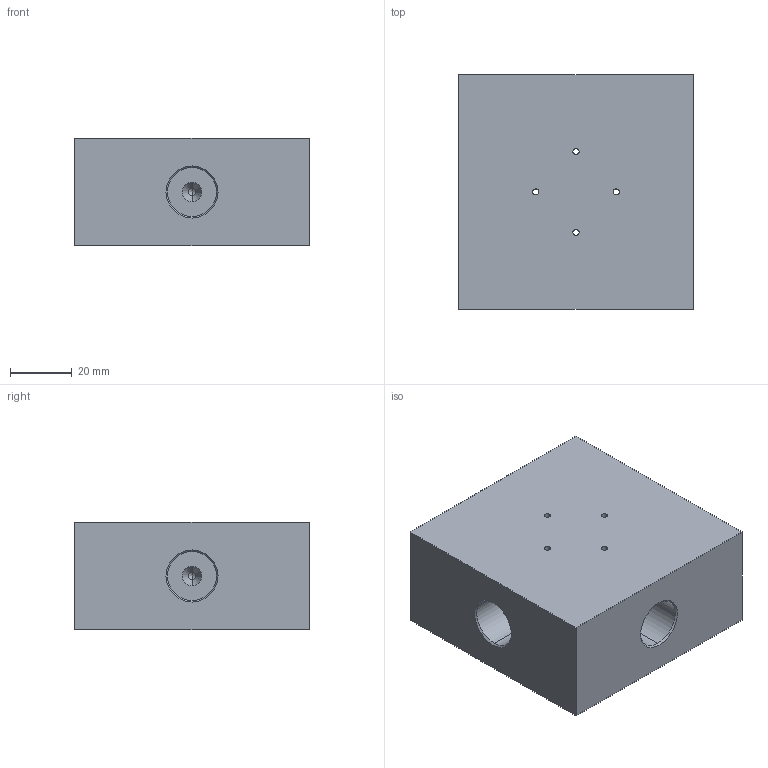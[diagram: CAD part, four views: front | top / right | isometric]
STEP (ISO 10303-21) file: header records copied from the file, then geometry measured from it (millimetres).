
FILE_DESCRIPTION (( 'STEP AP203' ), '1' );
FILE_NAME ('FT100CS06.STEP', '2026-06-26T00:51:43', ( 'USER' ), ( '' ), 'SwSTEP 2.0', 'SolidWorks 2023', '' );
FILE_SCHEMA (( 'CONFIG_CONTROL_DESIGN' ));
Length unit declared in the file: millimetre
Products named in the file (1): FT100CS06
Bounding box: 76.2 x 76.2 x 35 mm (x, y, z)
Volume: 181234.3 mm3; surface area: 28332.5 mm2
Topology: 1 solids, 1 shells, 66 faces, 172 edges, 100 vertices
Faces by surface type: cylinder 32, cone 24, plane 10
Entity records: 2273 total; most frequent: CARTESIAN_POINT 595, DIRECTION 338, ORIENTED_EDGE 328, EDGE_CURVE 164, AXIS2_PLACEMENT_3D 131, VERTEX_POINT 100, EDGE_LOOP 82, VECTOR 76
